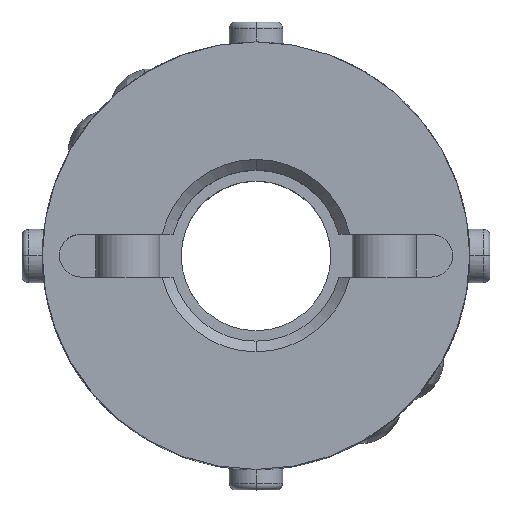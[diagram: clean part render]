
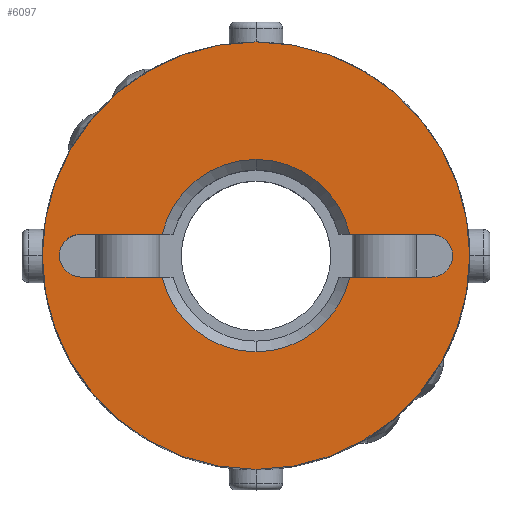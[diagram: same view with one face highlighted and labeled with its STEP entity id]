
A CAD part, top view. The second image highlights one B-rep face of the part: STEP entity #6097.
In plain terms, the highlighted planar face has unit normal (0, 0, 1).
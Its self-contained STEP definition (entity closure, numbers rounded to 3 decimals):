
#2430=CARTESIAN_POINT('',(8.907,0.707,10.0));
#2431=VERTEX_POINT('',#2430);
#2447=CARTESIAN_POINT('',(8.2,-1.,10.0));
#2448=VERTEX_POINT('',#2447);
#2455=CARTESIAN_POINT('',(8.2,0.,10.0));
#2456=DIRECTION('',(0.,0.,1.0));
#2457=DIRECTION('',(0.707,-0.707,0.));
#2458=AXIS2_PLACEMENT_3D('',#2455,#2456,#2457);
#2459=CIRCLE('',#2458,1.);
#2460=EDGE_CURVE('',#2448,#2431,#2459,.T.);
#2472=CARTESIAN_POINT('',(-8.907,-0.707,10.0));
#2473=VERTEX_POINT('',#2472);
#2489=CARTESIAN_POINT('',(-8.2,1.,10.0));
#2490=VERTEX_POINT('',#2489);
#2497=CARTESIAN_POINT('',(-8.2,0.,10.0));
#2498=DIRECTION('',(0.,0.,1.0));
#2499=DIRECTION('',(-0.707,0.707,0.));
#2500=AXIS2_PLACEMENT_3D('',#2497,#2498,#2499);
#2501=CIRCLE('',#2500,1.0);
#2502=EDGE_CURVE('',#2490,#2473,#2501,.T.);
#2512=CARTESIAN_POINT('',(0.,4.5,10.0));
#2513=VERTEX_POINT('',#2512);
#2521=CARTESIAN_POINT('',(4.387,1.,10.0));
#2522=VERTEX_POINT('',#2521);
#2536=CARTESIAN_POINT('',(0.,0.,10.0));
#2537=DIRECTION('',(0.0,0.0,1.0));
#2538=DIRECTION('',(0.0,1.0,0.0));
#2539=AXIS2_PLACEMENT_3D('',#2536,#2537,#2538);
#2540=CIRCLE('',#2539,4.5);
#2541=EDGE_CURVE('',#2522,#2513,#2540,.T.);
#2553=CARTESIAN_POINT('',(0.,-4.5,10.0));
#2554=VERTEX_POINT('',#2553);
#2570=CARTESIAN_POINT('',(-4.387,-1.,10.0));
#2571=VERTEX_POINT('',#2570);
#2585=CARTESIAN_POINT('',(0.,0.,10.0));
#2586=DIRECTION('',(0.0,0.0,1.0));
#2587=DIRECTION('',(0.0,-1.0,0.0));
#2588=AXIS2_PLACEMENT_3D('',#2585,#2586,#2587);
#2589=CIRCLE('',#2588,4.5);
#2590=EDGE_CURVE('',#2571,#2554,#2589,.T.);
#3156=CARTESIAN_POINT('',(0.,10.0,10.0));
#3157=VERTEX_POINT('',#3156);
#3164=CARTESIAN_POINT('',(0.,-10.0,10.0));
#3165=VERTEX_POINT('',#3164);
#3166=CARTESIAN_POINT('',(0.,0.,10.0));
#3167=DIRECTION('',(0.0,0.0,-1.0));
#3168=DIRECTION('',(0.0,-1.0,0.0));
#3169=AXIS2_PLACEMENT_3D('',#3166,#3167,#3168);
#3170=CIRCLE('',#3169,10.0);
#3171=EDGE_CURVE('',#3157,#3165,#3170,.T.);
#5383=CARTESIAN_POINT('',(0.,0.,10.0));
#5384=DIRECTION('',(0.0,0.0,-1.0));
#5385=DIRECTION('',(0.0,-1.0,0.0));
#5386=AXIS2_PLACEMENT_3D('',#5383,#5384,#5385);
#5387=CIRCLE('',#5386,10.0);
#5388=EDGE_CURVE('',#3165,#3157,#5387,.T.);
#5893=CARTESIAN_POINT('',(-4.387,1.,10.0));
#5894=VERTEX_POINT('',#5893);
#5908=CARTESIAN_POINT('',(-8.2,1.,10.0));
#5909=DIRECTION('',(1.0,0.0,0.0));
#5910=VECTOR('',#5909,3.813);
#5911=LINE('',#5908,#5910);
#5912=EDGE_CURVE('',#2490,#5894,#5911,.T.);
#5971=CARTESIAN_POINT('',(-8.2,-1.,10.0));
#5972=VERTEX_POINT('',#5971);
#5979=CARTESIAN_POINT('',(-4.387,-1.,10.0));
#5980=DIRECTION('',(-1.0,0.0,0.0));
#5981=VECTOR('',#5980,3.813);
#5982=LINE('',#5979,#5981);
#5983=EDGE_CURVE('',#2571,#5972,#5982,.T.);
#6000=CARTESIAN_POINT('',(4.387,-1.,10.0));
#6001=VERTEX_POINT('',#6000);
#6002=CARTESIAN_POINT('',(0.,0.,10.0));
#6003=DIRECTION('',(0.0,0.0,1.0));
#6004=DIRECTION('',(0.0,-1.0,0.0));
#6005=AXIS2_PLACEMENT_3D('',#6002,#6003,#6004);
#6006=CIRCLE('',#6005,4.5);
#6007=EDGE_CURVE('',#2554,#6001,#6006,.T.);
#6034=CARTESIAN_POINT('',(8.2,-1.,10.0));
#6035=DIRECTION('',(-1.0,0.0,0.0));
#6036=VECTOR('',#6035,3.813);
#6037=LINE('',#6034,#6036);
#6038=EDGE_CURVE('',#2448,#6001,#6037,.T.);
#6049=CARTESIAN_POINT('',(0.,-0.909,10.0));
#6050=DIRECTION('',(0.0,0.0,1.0));
#6051=DIRECTION('',(0.0,-1.0,0.0));
#6052=AXIS2_PLACEMENT_3D('',#6049,#6050,#6051);
#6053=PLANE('',#6052);
#6054=ORIENTED_EDGE('',*,*,#5388,.F.);
#6055=ORIENTED_EDGE('',*,*,#3171,.F.);
#6056=EDGE_LOOP('',(#6054,#6055));
#6057=FACE_OUTER_BOUND('',#6056,.T.);
#6058=ORIENTED_EDGE('',*,*,#2590,.F.);
#6059=ORIENTED_EDGE('',*,*,#5983,.T.);
#6060=CARTESIAN_POINT('',(-8.2,0.,10.0));
#6061=DIRECTION('',(0.,0.,1.0));
#6062=DIRECTION('',(-0.707,0.707,0.));
#6063=AXIS2_PLACEMENT_3D('',#6060,#6061,#6062);
#6064=CIRCLE('',#6063,1.0);
#6065=EDGE_CURVE('',#2473,#5972,#6064,.T.);
#6066=ORIENTED_EDGE('',*,*,#6065,.F.);
#6067=ORIENTED_EDGE('',*,*,#2502,.F.);
#6068=ORIENTED_EDGE('',*,*,#5912,.T.);
#6069=CARTESIAN_POINT('',(0.,0.,10.0));
#6070=DIRECTION('',(0.0,0.0,1.0));
#6071=DIRECTION('',(0.0,1.0,0.0));
#6072=AXIS2_PLACEMENT_3D('',#6069,#6070,#6071);
#6073=CIRCLE('',#6072,4.5);
#6074=EDGE_CURVE('',#2513,#5894,#6073,.T.);
#6075=ORIENTED_EDGE('',*,*,#6074,.F.);
#6076=ORIENTED_EDGE('',*,*,#2541,.F.);
#6077=CARTESIAN_POINT('',(8.2,1.,10.0));
#6078=VERTEX_POINT('',#6077);
#6079=CARTESIAN_POINT('',(4.387,1.,10.0));
#6080=DIRECTION('',(1.0,0.0,0.0));
#6081=VECTOR('',#6080,3.813);
#6082=LINE('',#6079,#6081);
#6083=EDGE_CURVE('',#2522,#6078,#6082,.T.);
#6084=ORIENTED_EDGE('',*,*,#6083,.T.);
#6085=CARTESIAN_POINT('',(8.2,0.,10.0));
#6086=DIRECTION('',(0.,0.,1.0));
#6087=DIRECTION('',(0.707,-0.707,0.));
#6088=AXIS2_PLACEMENT_3D('',#6085,#6086,#6087);
#6089=CIRCLE('',#6088,1.);
#6090=EDGE_CURVE('',#2431,#6078,#6089,.T.);
#6091=ORIENTED_EDGE('',*,*,#6090,.F.);
#6092=ORIENTED_EDGE('',*,*,#2460,.F.);
#6093=ORIENTED_EDGE('',*,*,#6038,.T.);
#6094=ORIENTED_EDGE('',*,*,#6007,.F.);
#6095=EDGE_LOOP('',(#6058,#6059,#6066,#6067,#6068,#6075,#6076,#6084,#6091,#6092,#6093,#6094));
#6096=FACE_BOUND('',#6095,.T.);
#6097=ADVANCED_FACE('',(#6057,#6096),#6053,.T.);
